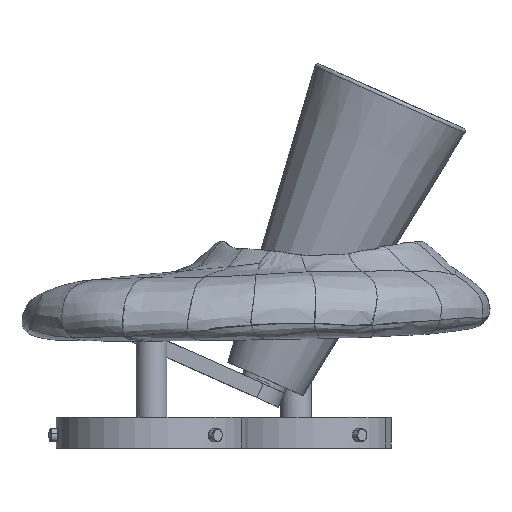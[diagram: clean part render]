
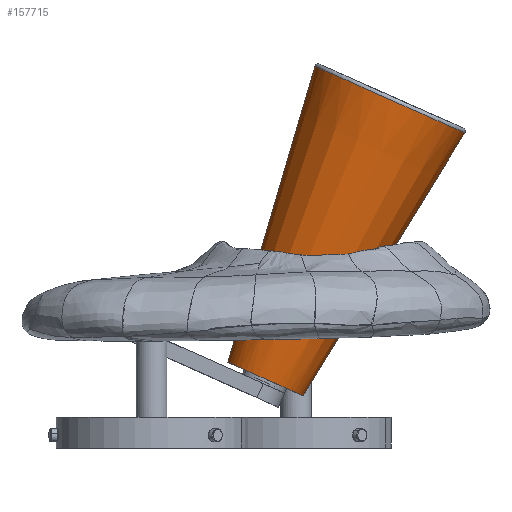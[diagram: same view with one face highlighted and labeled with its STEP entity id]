
A CAD part, front view. The second image highlights one B-rep face of the part: STEP entity #157715.
In plain terms, the highlighted conical face has half-angle 7.595 degrees and reference radius 25.4 mm.
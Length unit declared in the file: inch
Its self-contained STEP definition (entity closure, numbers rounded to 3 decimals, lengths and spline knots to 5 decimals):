
#3610 = CARTESIAN_POINT ( 'NONE',  ( -7.5, 0., 0. ) ) ;
#30453 = DIRECTION ( 'NONE',  ( 0., 1., 0. ) ) ;
#34180 = ORIENTED_EDGE ( 'NONE', *, *, #231242, .T. ) ;
#40248 = CIRCLE ( 'NONE', #296751, 1. ) ;
#47865 = ORIENTED_EDGE ( 'NONE', *, *, #237170, .T. ) ;
#48902 = DIRECTION ( 'NONE',  ( 0., 1., 0. ) ) ;
#51093 = DIRECTION ( 'NONE',  ( 0.991, 0.132, 0. ) ) ;
#54094 = ORIENTED_EDGE ( 'NONE', *, *, #187191, .T. ) ;
#58820 = DIRECTION ( 'NONE',  ( 1., 0., 0. ) ) ;
#66178 = ORIENTED_EDGE ( 'NONE', *, *, #262875, .F. ) ;
#76356 = VERTEX_POINT ( 'NONE', #112285 ) ;
#103304 = VECTOR ( 'NONE', #277182, 39.37008 ) ;
#108772 = CARTESIAN_POINT ( 'NONE',  ( -7.5, 1., 0. ) ) ;
#112285 = CARTESIAN_POINT ( 'NONE',  ( -0.08915, -1.98811, 0. ) ) ;
#122052 = CARTESIAN_POINT ( 'NONE',  ( -7.5, 1., 0. ) ) ;
#139648 = LINE ( 'NONE', #108772, #356586 ) ;
#149443 = CARTESIAN_POINT ( 'NONE',  ( -7.5, 0., 0. ) ) ;
#157521 = CARTESIAN_POINT ( 'NONE',  ( -7.5, -1., 0. ) ) ;
#157715 = ADVANCED_FACE ( 'NONE', ( #402550 ), #178661, .T. ) ;
#178661 = CONICAL_SURFACE ( 'NONE', #185389, 1., 0.133 ) ;
#185389 = AXIS2_PLACEMENT_3D ( 'NONE', #149443, #58820, #338747 ) ;
#186063 = VERTEX_POINT ( 'NONE', #122052 ) ;
#187191 = EDGE_CURVE ( 'NONE', #190023, #186063, #40248, .T. ) ;
#190023 = VERTEX_POINT ( 'NONE', #157521 ) ;
#191715 = VERTEX_POINT ( 'NONE', #328125 ) ;
#203261 = DIRECTION ( 'NONE',  ( -1., 0., 0. ) ) ;
#205281 = CARTESIAN_POINT ( 'NONE',  ( -7.5, -1., 0. ) ) ;
#215731 = DIRECTION ( 'NONE',  ( 1., 0., 0. ) ) ;
#231242 = EDGE_CURVE ( 'NONE', #191715, #76356, #363348, .T. ) ;
#236141 = LINE ( 'NONE', #205281, #103304 ) ;
#237170 = EDGE_CURVE ( 'NONE', #186063, #191715, #139648, .T. ) ;
#262875 = EDGE_CURVE ( 'NONE', #190023, #76356, #236141, .T. ) ;
#277182 = DIRECTION ( 'NONE',  ( 0.991, -0.132, 0. ) ) ;
#277858 = AXIS2_PLACEMENT_3D ( 'NONE', #299973, #203261, #48902 ) ;
#296751 = AXIS2_PLACEMENT_3D ( 'NONE', #3610, #215731, #30453 ) ;
#299973 = CARTESIAN_POINT ( 'NONE',  ( -0.08915, 0., 0. ) ) ;
#328125 = CARTESIAN_POINT ( 'NONE',  ( -0.08915, 1.98811, 0. ) ) ;
#338747 = DIRECTION ( 'NONE',  ( 0., 1., 0. ) ) ;
#346096 = EDGE_LOOP ( 'NONE', ( #66178, #54094, #47865, #34180 ) ) ;
#356586 = VECTOR ( 'NONE', #51093, 39.37008 ) ;
#363348 = CIRCLE ( 'NONE', #277858, 1.98811 ) ;
#402550 = FACE_OUTER_BOUND ( 'NONE', #346096, .T. ) ;
